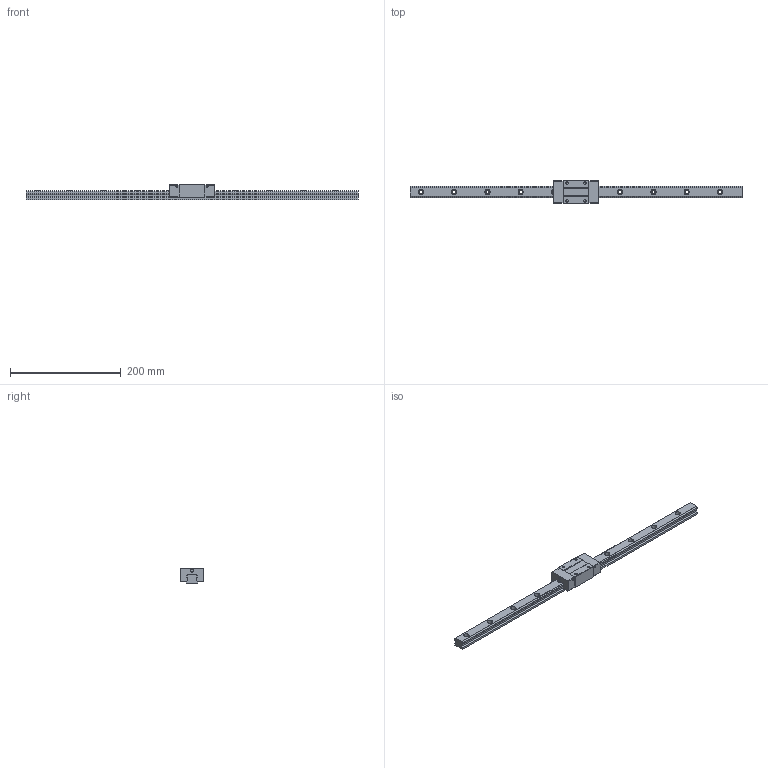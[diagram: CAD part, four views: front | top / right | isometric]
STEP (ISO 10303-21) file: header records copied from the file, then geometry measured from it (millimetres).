
FILE_DESCRIPTION (( 'STEP AP203' ), '1' );
FILE_NAME ('TRS20VN-SZ.STEP', '2024-07-11T08:13:17', ( '' ), ( '' ), 'SwSTEP 2.0', 'SolidWorks 2022', '' );
FILE_SCHEMA (( 'CONFIG_CONTROL_DESIGN' ));
Length unit declared in the file: millimetre
Products named in the file (1): TRS20VN-SZ
Bounding box: 600 x 42 x 28 mm (x, y, z)
Volume: 229335.9 mm3; surface area: 64499.1 mm2
Topology: 2 solids, 2 shells, 192 faces, 496 edges, 328 vertices
Faces by surface type: cylinder 96, plane 96
Entity records: 6023 total; most frequent: DIRECTION 1074, CARTESIAN_POINT 1017, ORIENTED_EDGE 992, EDGE_CURVE 496, AXIS2_PLACEMENT_3D 385, VERTEX_POINT 328, VECTOR 304, LINE 304
